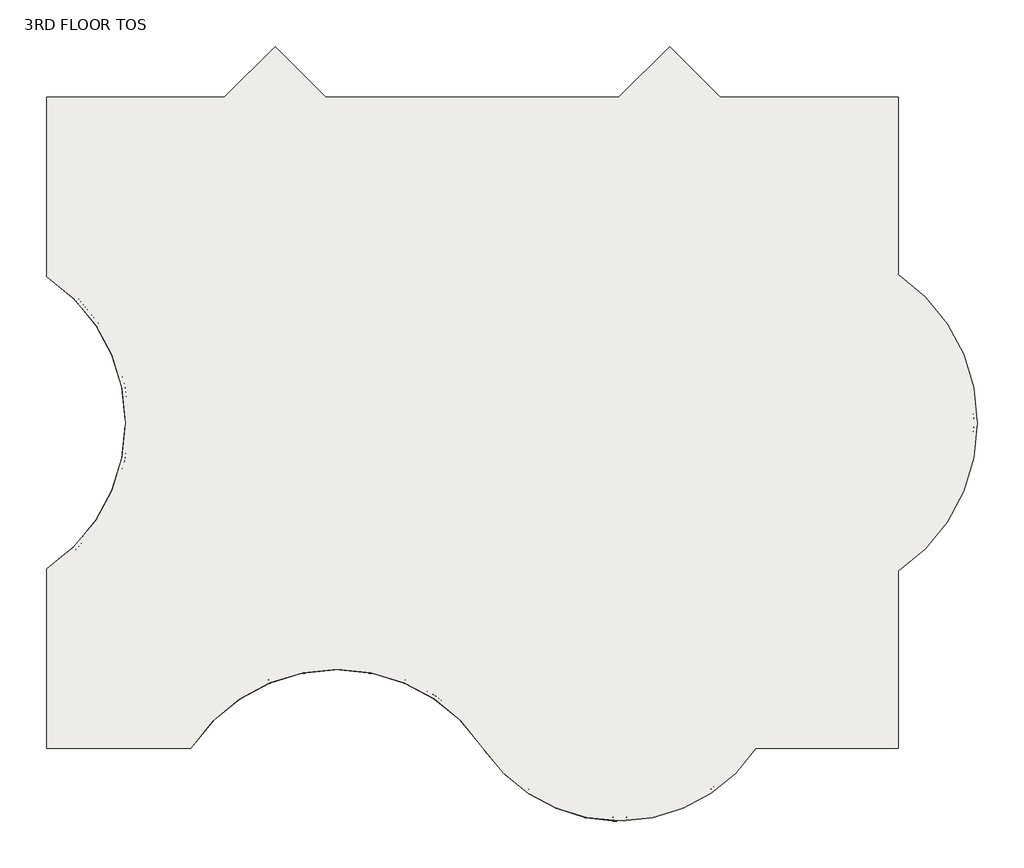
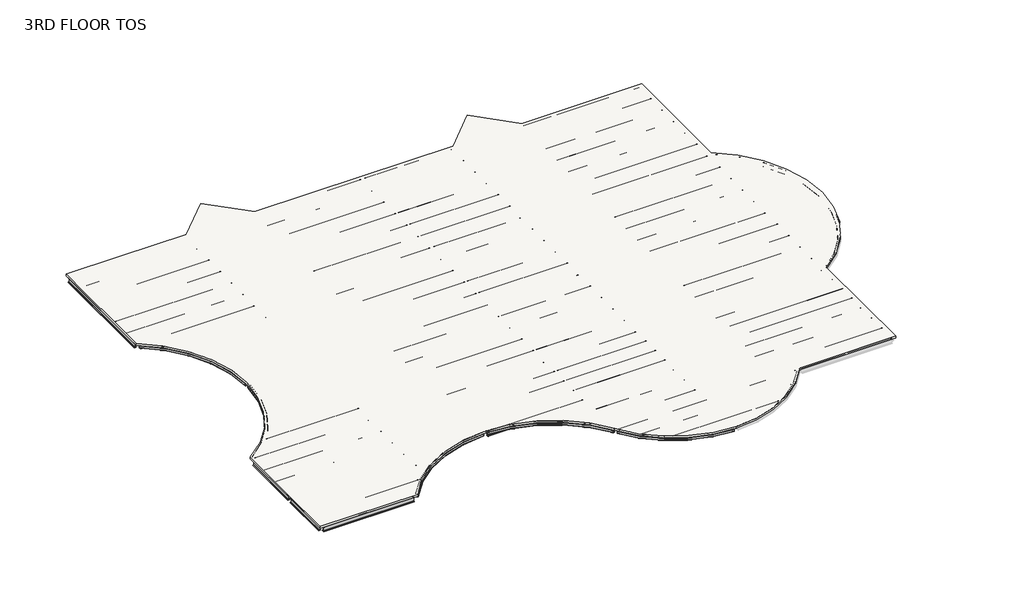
# One storey, part 1 of 2: 86 beams, 1 slab.
"""IFC4 building model written with IfcOpenShell, lengths in millimetres."""

from ifc_helpers import new_model, si_unit, frame, origin, place, context, project, spatial, polyline, circle_curve, transform, mapped, element, save
from ifc_brep_helpers import plane_surface, cylinder_surface, revolved_surface, advanced_brep
from components import m_hss_square_hss203_2x203_2x9_5_914ff4eb, m_hss_square_hss203_2x203_2x9_5_0e3d8e6e, m_hss_square_hss203_2x203_2x9_5_16dc1c03, m_hss_square_hss203_2x203_2x9_5_18346204, m_hss_square_hss203_2x203_2x9_5_d5f1e8c4, ub_universal_beams_ub254x102x28_4e7f3726, ub_universal_beams_ub305x165x40_c4d0385b, ub_universal_beams_ub305x165x40_d3abc31d, ub_universal_beams_ub305x165x40_0c73730f, ub_universal_beams_ub305x165x40_2a963f0c, ub_universal_beams_ub305x165x40_0a5f2f96, ub_universal_beams_ub305x165x40_d1f7c369, ub_universal_beams_ub305x165x40_83d7b7d5, ub_universal_beams_ub305x165x40_729a4ea5, ub_universal_beams_ub305x165x40_71dfa851, ub_universal_beams_ub305x165x40_619b5398, ub_universal_beams_ub305x165x40_c3492db1, ub_universal_beams_ub305x165x40_8f1c350d, ub_universal_beams_ub305x165x40_3afb5f90, ub_universal_beams_ub305x165x40_767d1929, ub_universal_beams_ub305x165x40_5941ca45, ub_universal_beams_ub356x171x51_ef72dcdd, ub_universal_beams_ub356x171x51_7f80702c, ub_universal_beams_ub356x171x51_dfc36663, ub_universal_beams_ub356x171x51_405a853e, ub_universal_beams_ub356x171x51_e47b7055, ub_universal_beams_ub356x171x51_e97f8d2e, ub_universal_beams_ub356x171x51_11d6b780, ub_universal_beams_ub356x171x51_76b2d20b, ub_universal_beams_ub356x171x51_145ecd4b, ub_universal_beams_ub356x171x51_c7dff8d2, ub_universal_beams_ub356x171x51_834c6e34, ub_universal_beams_ub356x171x51_a38b99de, ub_universal_beams_ub356x171x51_d8f4cdde, ub_universal_beams_ub356x171x51_8094f821, ub_universal_beams_ub356x171x51_e661f2e4, ub_universal_beams_ub356x171x51_3ee91673, ub_universal_beams_ub356x171x51_a871b283, ub_universal_beams_ub356x171x51_741bae58

model = new_model("IFC4")

# Units and contexts
model_context = context("Model", 3, world=origin())
ifc_project = project(units=[si_unit("LENGTHUNIT", "METRE", prefix="MILLI")], contexts=[model_context])

# Site, building, storey
site = spatial("IfcSite", under=ifc_project)
building = spatial("IfcBuilding", under=site)
storey = spatial("IfcBuildingStorey", under=building, Name="3RD FLOOR TOS", Elevation=13563.6)

# Beams
placement = place(None, origin())
m_hss_square_hss203_2x203_2x9_5_shape = m_hss_square_hss203_2x203_2x9_5_914ff4eb(model_context)
element("IfcBeam", 1, ObjectType="M_HSS Square : HSS203.2X203.2X9.5", at=placement, inside=storey, context=model_context, shape_type="MappedRepresentation", body=[
    mapped(m_hss_square_hss203_2x203_2x9_5_shape, transform((22710.575, 155.575, 13462.1), x_axis=(-0.552849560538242, 0.8332810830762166, 0.0), y_axis=(-0.8332810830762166, -0.552849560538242, 0.0), z_axis=(0.0, 0.0, 1.0))),
])
m_hss_square_hss203_2x203_2x9_5_2_shape = m_hss_square_hss203_2x203_2x9_5_0e3d8e6e(model_context)
element("IfcBeam", 2, ObjectType="M_HSS Square : HSS203.2X203.2X9.5", at=placement, inside=storey, context=model_context, shape_type="MappedRepresentation", body=[
    mapped(m_hss_square_hss203_2x203_2x9_5_2_shape, transform((155.575, 9299.575, 13462.1), x_axis=(0.8332810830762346, 0.5528495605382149, 0.0), y_axis=(-0.5528495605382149, 0.8332810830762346, 0.0), z_axis=(0.0, 0.0, 1.0))),
])
m_hss_square_hss203_2x203_2x9_5_3_shape = m_hss_square_hss203_2x203_2x9_5_16dc1c03(model_context)
element("IfcBeam", 3, ObjectType="M_HSS Square : HSS203.2X203.2X9.5", at=placement, inside=storey, context=model_context, shape_type="MappedRepresentation", body=[
    mapped(m_hss_square_hss203_2x203_2x9_5_3_shape, transform((155.575, 24539.575, 13462.1), x_axis=(0.8332810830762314, -0.5528495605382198, 0.0), y_axis=(0.5528495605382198, 0.8332810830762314, 0.0), z_axis=(0.0, 0.0, 1.0))),
])
m_hss_square_hss203_2x203_2x9_5_4_shape = m_hss_square_hss203_2x203_2x9_5_18346204(model_context)
element("IfcBeam", 4, ObjectType="M_HSS Square : HSS203.2X203.2X9.5", at=placement, inside=storey, context=model_context, shape_type="MappedRepresentation", body=[
    mapped(m_hss_square_hss203_2x203_2x9_5_4_shape, transform((29734.7266693, -3601.398624, 13462.1), x_axis=(-0.9999968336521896, -0.0025164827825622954, 0.0), y_axis=(0.0025164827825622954, -0.9999968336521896, 0.0), z_axis=(0.0, 0.0, 1.0))),
])
m_hss_square_hss203_2x203_2x9_5_5_shape = m_hss_square_hss203_2x203_2x9_5_d5f1e8c4(model_context)
element("IfcBeam", 5, ObjectType="M_HSS Square : HSS203.2X203.2X9.5", at=placement, inside=storey, context=model_context, shape_type="MappedRepresentation", body=[
    mapped(m_hss_square_hss203_2x203_2x9_5_5_shape, transform((15096.4572854, 4244.5731081, 13462.1), x_axis=(-0.9999997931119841, 0.0006432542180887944, 0.0), y_axis=(-0.0006432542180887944, -0.9999997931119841, 0.0), z_axis=(0.0, 0.0, 1.0))),
])
ub_universal_beams_ub254x102x28_shape = ub_universal_beams_ub254x102x28_4e7f3726(model_context)
element("IfcBeam", 6, ObjectType="UB-Universal Beams : UB254x102x28", at=placement, inside=storey, context=model_context, shape_type="MappedRepresentation", body=[
    mapped(ub_universal_beams_ub254x102x28_shape, transform((9299.575, 3210.915913, 13433.4), x_axis=(0.0, -1.0, 0.0), y_axis=(1.0, 0.0, 0.0), z_axis=(0.0, 0.0, 1.0))),
])
ub_universal_beams_ub305x165x40_shape = ub_universal_beams_ub305x165x40_c4d0385b(model_context)
element("IfcBeam", 7, ObjectType="UB-Universal Beams : UB305x165x40", at=placement, inside=storey, context=model_context, shape_type="MappedRepresentation", body=[
    mapped(ub_universal_beams_ub305x165x40_shape, transform((4727.575, 30635.575, 13411.9), x_axis=(1.0, 0.0, 0.0), y_axis=(0.0, 1.0, 0.0), z_axis=(0.0, 0.0, 1.0))),
])
element("IfcBeam", 8, ObjectType="UB-Universal Beams : UB305x165x40", at=placement, inside=storey, context=model_context, shape_type="MappedRepresentation", body=[
    mapped(ub_universal_beams_ub305x165x40_shape, transform((4727.575, 29111.575, 13411.9), x_axis=(1.0, 0.0, 0.0), y_axis=(0.0, 1.0, 0.0), z_axis=(0.0, 0.0, 1.0))),
])
element("IfcBeam", 9, ObjectType="UB-Universal Beams : UB305x165x40", at=placement, inside=storey, context=model_context, shape_type="MappedRepresentation", body=[
    mapped(ub_universal_beams_ub305x165x40_shape, transform((4727.575, 27587.575, 13411.9), x_axis=(1.0, 0.0, 0.0), y_axis=(0.0, 1.0, 0.0), z_axis=(0.0, 0.0, 1.0))),
])
element("IfcBeam", 10, ObjectType="UB-Universal Beams : UB305x165x40", at=placement, inside=storey, context=model_context, shape_type="MappedRepresentation", body=[
    mapped(ub_universal_beams_ub305x165x40_shape, transform((4727.575, 26063.575, 13411.9), x_axis=(1.0, 0.0, 0.0), y_axis=(0.0, 1.0, 0.0), z_axis=(0.0, 0.0, 1.0))),
])
element("IfcBeam", 11, ObjectType="UB-Universal Beams : UB305x165x40", at=placement, inside=storey, context=model_context, shape_type="MappedRepresentation", body=[
    mapped(ub_universal_beams_ub305x165x40_shape, transform((4727.575, 4727.575, 13411.9), x_axis=(-1.0, 0.0, 0.0), y_axis=(0.0, -1.0, 0.0), z_axis=(0.0, 0.0, 1.0))),
])
element("IfcBeam", 12, ObjectType="UB-Universal Beams : UB305x165x40", at=placement, inside=storey, context=model_context, shape_type="MappedRepresentation", body=[
    mapped(ub_universal_beams_ub305x165x40_shape, transform((4727.575, 6251.575, 13411.9), x_axis=(-1.0, 0.0, 0.0), y_axis=(0.0, -1.0, 0.0), z_axis=(0.0, 0.0, 1.0))),
])
element("IfcBeam", 13, ObjectType="UB-Universal Beams : UB305x165x40", at=placement, inside=storey, context=model_context, shape_type="MappedRepresentation", body=[
    mapped(ub_universal_beams_ub305x165x40_shape, transform((4727.575, 7775.575, 13411.9), x_axis=(-1.0, 0.0, 0.0), y_axis=(0.0, -1.0, 0.0), z_axis=(0.0, 0.0, 1.0))),
])
ub_universal_beams_ub305x165x40_2_shape = ub_universal_beams_ub305x165x40_d3abc31d(model_context)
element("IfcBeam", 14, ObjectType="UB-Universal Beams : UB305x165x40", at=placement, inside=storey, context=model_context, shape_type="MappedRepresentation", body=[
    mapped(ub_universal_beams_ub305x165x40_2_shape, transform((11885.575, 28938.325, 13411.9), x_axis=(1.0, 0.0, 0.0), y_axis=(0.0, 1.0, 0.0), z_axis=(0.0, 0.0, 1.0))),
])
element("IfcBeam", 15, ObjectType="UB-Universal Beams : UB305x165x40", at=placement, inside=storey, context=model_context, shape_type="MappedRepresentation", body=[
    mapped(ub_universal_beams_ub305x165x40_2_shape, transform((11885.575, 27472.075, 13411.9), x_axis=(1.0, 0.0, 0.0), y_axis=(0.0, 1.0, 0.0), z_axis=(0.0, 0.0, 1.0))),
])
element("IfcBeam", 16, ObjectType="UB-Universal Beams : UB305x165x40", at=placement, inside=storey, context=model_context, shape_type="MappedRepresentation", body=[
    mapped(ub_universal_beams_ub305x165x40_2_shape, transform((11885.575, 26005.825, 13411.9), x_axis=(1.0, 0.0, 0.0), y_axis=(0.0, 1.0, 0.0), z_axis=(0.0, 0.0, 1.0))),
])
element("IfcBeam", 17, ObjectType="UB-Universal Beams : UB305x165x40", at=placement, inside=storey, context=model_context, shape_type="MappedRepresentation", body=[
    mapped(ub_universal_beams_ub305x165x40_2_shape, transform((11885.575, 23015.575, 13411.9), x_axis=(1.0, 0.0, 0.0), y_axis=(0.0, 1.0, 0.0), z_axis=(0.0, 0.0, 1.0))),
])
element("IfcBeam", 18, ObjectType="UB-Universal Beams : UB305x165x40", at=placement, inside=storey, context=model_context, shape_type="MappedRepresentation", body=[
    mapped(ub_universal_beams_ub305x165x40_2_shape, transform((11885.575, 21491.575, 13411.9), x_axis=(1.0, 0.0, 0.0), y_axis=(0.0, 1.0, 0.0), z_axis=(0.0, 0.0, 1.0))),
])
element("IfcBeam", 19, ObjectType="UB-Universal Beams : UB305x165x40", at=placement, inside=storey, context=model_context, shape_type="MappedRepresentation", body=[
    mapped(ub_universal_beams_ub305x165x40_2_shape, transform((11885.575, 19967.575, 13411.9), x_axis=(1.0, 0.0, 0.0), y_axis=(0.0, 1.0, 0.0), z_axis=(0.0, 0.0, 1.0))),
])
element("IfcBeam", 20, ObjectType="UB-Universal Beams : UB305x165x40", at=placement, inside=storey, context=model_context, shape_type="MappedRepresentation", body=[
    mapped(ub_universal_beams_ub305x165x40_2_shape, transform((11885.575, 18443.575, 13411.9), x_axis=(1.0, 0.0, 0.0), y_axis=(0.0, 1.0, 0.0), z_axis=(0.0, 0.0, 1.0))),
])
element("IfcBeam", 21, ObjectType="UB-Universal Beams : UB305x165x40", at=placement, inside=storey, context=model_context, shape_type="MappedRepresentation", body=[
    mapped(ub_universal_beams_ub305x165x40_2_shape, transform((11885.575, 15395.575, 13411.9), x_axis=(1.0, 0.0, 0.0), y_axis=(0.0, 1.0, 0.0), z_axis=(0.0, 0.0, 1.0))),
])
element("IfcBeam", 22, ObjectType="UB-Universal Beams : UB305x165x40", at=placement, inside=storey, context=model_context, shape_type="MappedRepresentation", body=[
    mapped(ub_universal_beams_ub305x165x40_2_shape, transform((11885.575, 13871.575, 13411.9), x_axis=(1.0, 0.0, 0.0), y_axis=(0.0, 1.0, 0.0), z_axis=(0.0, 0.0, 1.0))),
])
element("IfcBeam", 23, ObjectType="UB-Universal Beams : UB305x165x40", at=placement, inside=storey, context=model_context, shape_type="MappedRepresentation", body=[
    mapped(ub_universal_beams_ub305x165x40_2_shape, transform((11885.575, 12347.575, 13411.9), x_axis=(1.0, 0.0, 0.0), y_axis=(0.0, 1.0, 0.0), z_axis=(0.0, 0.0, 1.0))),
])
element("IfcBeam", 24, ObjectType="UB-Universal Beams : UB305x165x40", at=placement, inside=storey, context=model_context, shape_type="MappedRepresentation", body=[
    mapped(ub_universal_beams_ub305x165x40_2_shape, transform((11885.575, 10823.575, 13411.9), x_axis=(1.0, 0.0, 0.0), y_axis=(0.0, 1.0, 0.0), z_axis=(0.0, 0.0, 1.0))),
])
element("IfcBeam", 25, ObjectType="UB-Universal Beams : UB305x165x40", at=placement, inside=storey, context=model_context, shape_type="MappedRepresentation", body=[
    mapped(ub_universal_beams_ub305x165x40_2_shape, transform((11885.575, 5026.1840956, 13411.9), x_axis=(-1.0, 0.0, 0.0), y_axis=(0.0, -1.0, 0.0), z_axis=(0.0, 0.0, 1.0))),
])
element("IfcBeam", 26, ObjectType="UB-Universal Beams : UB305x165x40", at=placement, inside=storey, context=model_context, shape_type="MappedRepresentation", body=[
    mapped(ub_universal_beams_ub305x165x40_2_shape, transform((11885.575, 6450.6477304, 13411.9), x_axis=(-1.0, 0.0, 0.0), y_axis=(0.0, -1.0, 0.0), z_axis=(0.0, 0.0, 1.0))),
])
element("IfcBeam", 27, ObjectType="UB-Universal Beams : UB305x165x40", at=placement, inside=storey, context=model_context, shape_type="MappedRepresentation", body=[
    mapped(ub_universal_beams_ub305x165x40_2_shape, transform((11885.575, 7875.1113652, 13411.9), x_axis=(-1.0, 0.0, 0.0), y_axis=(0.0, -1.0, 0.0), z_axis=(0.0, 0.0, 1.0))),
])
ub_universal_beams_ub305x165x40_3_shape = ub_universal_beams_ub305x165x40_0c73730f(model_context)
element("IfcBeam", 28, ObjectType="UB-Universal Beams : UB305x165x40", at=placement, inside=storey, context=model_context, shape_type="MappedRepresentation", body=[
    mapped(ub_universal_beams_ub305x165x40_3_shape, transform((18591.075, 5492.5943214, 13411.9), x_axis=(-1.0, 0.0, 0.0), y_axis=(0.0, -1.0, 0.0), z_axis=(0.0, 0.0, 1.0))),
])
element("IfcBeam", 29, ObjectType="UB-Universal Beams : UB305x165x40", at=placement, inside=storey, context=model_context, shape_type="MappedRepresentation", body=[
    mapped(ub_universal_beams_ub305x165x40_3_shape, transform((18591.075, 6761.5878809, 13411.9), x_axis=(-1.0, 0.0, 0.0), y_axis=(0.0, -1.0, 0.0), z_axis=(0.0, 0.0, 1.0))),
])
element("IfcBeam", 30, ObjectType="UB-Universal Beams : UB305x165x40", at=placement, inside=storey, context=model_context, shape_type="MappedRepresentation", body=[
    mapped(ub_universal_beams_ub305x165x40_3_shape, transform((18591.075, 8030.5814405, 13411.9), x_axis=(-1.0, 0.0, 0.0), y_axis=(0.0, -1.0, 0.0), z_axis=(0.0, 0.0, 1.0))),
])
element("IfcBeam", 31, ObjectType="UB-Universal Beams : UB305x165x40", at=placement, inside=storey, context=model_context, shape_type="MappedRepresentation", body=[
    mapped(ub_universal_beams_ub305x165x40_3_shape, transform((18591.075, 15395.575, 13411.9), x_axis=(1.0, 0.0, 0.0), y_axis=(0.0, 1.0, 0.0), z_axis=(0.0, 0.0, 1.0))),
])
element("IfcBeam", 32, ObjectType="UB-Universal Beams : UB305x165x40", at=placement, inside=storey, context=model_context, shape_type="MappedRepresentation", body=[
    mapped(ub_universal_beams_ub305x165x40_3_shape, transform((18591.075, 13871.575, 13411.9), x_axis=(1.0, 0.0, 0.0), y_axis=(0.0, 1.0, 0.0), z_axis=(0.0, 0.0, 1.0))),
])
element("IfcBeam", 33, ObjectType="UB-Universal Beams : UB305x165x40", at=placement, inside=storey, context=model_context, shape_type="MappedRepresentation", body=[
    mapped(ub_universal_beams_ub305x165x40_3_shape, transform((18591.075, 12347.575, 13411.9), x_axis=(1.0, 0.0, 0.0), y_axis=(0.0, 1.0, 0.0), z_axis=(0.0, 0.0, 1.0))),
])
element("IfcBeam", 34, ObjectType="UB-Universal Beams : UB305x165x40", at=placement, inside=storey, context=model_context, shape_type="MappedRepresentation", body=[
    mapped(ub_universal_beams_ub305x165x40_3_shape, transform((18591.075, 10823.575, 13411.9), x_axis=(1.0, 0.0, 0.0), y_axis=(0.0, 1.0, 0.0), z_axis=(0.0, 0.0, 1.0))),
])
ub_universal_beams_ub305x165x40_4_shape = ub_universal_beams_ub305x165x40_2a963f0c(model_context)
element("IfcBeam", 35, ObjectType="UB-Universal Beams : UB305x165x40", at=placement, inside=storey, context=model_context, shape_type="MappedRepresentation", body=[
    mapped(ub_universal_beams_ub305x165x40_4_shape, transform((26211.075, 15395.575, 13411.9), x_axis=(1.0, 0.0, 0.0), y_axis=(0.0, 1.0, 0.0), z_axis=(0.0, 0.0, 1.0))),
])
element("IfcBeam", 36, ObjectType="UB-Universal Beams : UB305x165x40", at=placement, inside=storey, context=model_context, shape_type="MappedRepresentation", body=[
    mapped(ub_universal_beams_ub305x165x40_4_shape, transform((26211.075, 13871.575, 13411.9), x_axis=(1.0, 0.0, 0.0), y_axis=(0.0, 1.0, 0.0), z_axis=(0.0, 0.0, 1.0))),
])
element("IfcBeam", 37, ObjectType="UB-Universal Beams : UB305x165x40", at=placement, inside=storey, context=model_context, shape_type="MappedRepresentation", body=[
    mapped(ub_universal_beams_ub305x165x40_4_shape, transform((26211.075, 12347.575, 13411.9), x_axis=(1.0, 0.0, 0.0), y_axis=(0.0, 1.0, 0.0), z_axis=(0.0, 0.0, 1.0))),
])
element("IfcBeam", 38, ObjectType="UB-Universal Beams : UB305x165x40", at=placement, inside=storey, context=model_context, shape_type="MappedRepresentation", body=[
    mapped(ub_universal_beams_ub305x165x40_4_shape, transform((26211.075, 10823.575, 13411.9), x_axis=(1.0, 0.0, 0.0), y_axis=(0.0, 1.0, 0.0), z_axis=(0.0, 0.0, 1.0))),
])
element("IfcBeam", 39, ObjectType="UB-Universal Beams : UB305x165x40", at=placement, inside=storey, context=model_context, shape_type="MappedRepresentation", body=[
    mapped(ub_universal_beams_ub305x165x40_4_shape, transform((26211.075, 5508.325, 13411.9), x_axis=(-1.0, 0.0, 0.0), y_axis=(0.0, -1.0, 0.0), z_axis=(0.0, 0.0, 1.0))),
])
element("IfcBeam", 40, ObjectType="UB-Universal Beams : UB305x165x40", at=placement, inside=storey, context=model_context, shape_type="MappedRepresentation", body=[
    mapped(ub_universal_beams_ub305x165x40_4_shape, transform((26211.075, 6772.075, 13411.9), x_axis=(-1.0, 0.0, 0.0), y_axis=(0.0, -1.0, 0.0), z_axis=(0.0, 0.0, 1.0))),
])
element("IfcBeam", 41, ObjectType="UB-Universal Beams : UB305x165x40", at=placement, inside=storey, context=model_context, shape_type="MappedRepresentation", body=[
    mapped(ub_universal_beams_ub305x165x40_4_shape, transform((26211.075, 8035.825, 13411.9), x_axis=(-1.0, 0.0, 0.0), y_axis=(0.0, -1.0, 0.0), z_axis=(0.0, 0.0, 1.0))),
])
element("IfcBeam", 42, ObjectType="UB-Universal Beams : UB305x165x40", at=placement, inside=storey, context=model_context, shape_type="MappedRepresentation", body=[
    mapped(ub_universal_beams_ub305x165x40_4_shape, transform((26211.075, 1518.575, 13411.9), x_axis=(-1.0, 0.0, 0.0), y_axis=(0.0, -1.0, 0.0), z_axis=(0.0, 0.0, 1.0))),
])
element("IfcBeam", 43, ObjectType="UB-Universal Beams : UB305x165x40", at=placement, inside=storey, context=model_context, shape_type="MappedRepresentation", body=[
    mapped(ub_universal_beams_ub305x165x40_4_shape, transform((26211.075, 2881.575, 13411.9), x_axis=(-1.0, 0.0, 0.0), y_axis=(0.0, -1.0, 0.0), z_axis=(0.0, 0.0, 1.0))),
])
ub_universal_beams_ub305x165x40_5_shape = ub_universal_beams_ub305x165x40_0a5f2f96(model_context)
element("IfcBeam", 44, ObjectType="UB-Universal Beams : UB305x165x40", at=placement, inside=storey, context=model_context, shape_type="MappedRepresentation", body=[
    mapped(ub_universal_beams_ub305x165x40_5_shape, transform((29713.575, -2349.0918253, 13411.9), x_axis=(-1.0, 0.0, 0.0), y_axis=(0.0, -1.0, 0.0), z_axis=(0.0, 0.0, 1.0))),
])
ub_universal_beams_ub305x165x40_6_shape = ub_universal_beams_ub305x165x40_d1f7c369(model_context)
element("IfcBeam", 45, ObjectType="UB-Universal Beams : UB305x165x40", at=placement, inside=storey, context=model_context, shape_type="MappedRepresentation", body=[
    mapped(ub_universal_beams_ub305x165x40_6_shape, transform((29713.575, -1096.7584126, 13411.9), x_axis=(-1.0, 0.0, 0.0), y_axis=(0.0, -1.0, 0.0), z_axis=(0.0, 0.0, 1.0))),
])
ub_universal_beams_ub305x165x40_7_shape = ub_universal_beams_ub305x165x40_83d7b7d5(model_context)
element("IfcBeam", 46, ObjectType="UB-Universal Beams : UB305x165x40", at=placement, inside=storey, context=model_context, shape_type="MappedRepresentation", body=[
    mapped(ub_universal_beams_ub305x165x40_7_shape, transform((22157.3041106, 1518.575, 13411.9), x_axis=(-1.0, 0.0, 0.0), y_axis=(0.0, -1.0, 0.0), z_axis=(0.0, 0.0, 1.0))),
])
ub_universal_beams_ub305x165x40_8_shape = ub_universal_beams_ub305x165x40_729a4ea5(model_context)
element("IfcBeam", 47, ObjectType="UB-Universal Beams : UB305x165x40", at=placement, inside=storey, context=model_context, shape_type="MappedRepresentation", body=[
    mapped(ub_universal_beams_ub305x165x40_8_shape, transform((21302.1545844, 2881.575, 13411.9), x_axis=(-1.0, 0.0, 0.0), y_axis=(0.0, -1.0, 0.0), z_axis=(0.0, 0.0, 1.0))),
])
ub_universal_beams_ub305x165x40_9_shape = ub_universal_beams_ub305x165x40_71dfa851(model_context)
element("IfcBeam", 48, ObjectType="UB-Universal Beams : UB305x165x40", at=placement, inside=storey, context=model_context, shape_type="MappedRepresentation", body=[
    mapped(ub_universal_beams_ub305x165x40_9_shape, transform((10511.0323166, 3601.7204608, 13411.9), x_axis=(-1.0, 0.0, 0.0), y_axis=(0.0, -1.0, 0.0), z_axis=(0.0, 0.0, 1.0))),
])
ub_universal_beams_ub305x165x40_10_shape = ub_universal_beams_ub305x165x40_619b5398(model_context)
element("IfcBeam", 49, ObjectType="UB-Universal Beams : UB305x165x40", at=placement, inside=storey, context=model_context, shape_type="MappedRepresentation", body=[
    mapped(ub_universal_beams_ub305x165x40_10_shape, transform((4447.6838282, 1679.575, 13411.9), x_axis=(-1.0, 0.0, 0.0), y_axis=(0.0, -1.0, 0.0), z_axis=(0.0, 0.0, 1.0))),
])
ub_universal_beams_ub305x165x40_11_shape = ub_universal_beams_ub305x165x40_c3492db1(model_context)
element("IfcBeam", 50, ObjectType="UB-Universal Beams : UB305x165x40", at=placement, inside=storey, context=model_context, shape_type="MappedRepresentation", body=[
    mapped(ub_universal_beams_ub305x165x40_11_shape, transform((4727.575, 3203.575, 13411.9), x_axis=(-1.0, 0.0, 0.0), y_axis=(0.0, -1.0, 0.0), z_axis=(0.0, 0.0, 1.0))),
])
ub_universal_beams_ub305x165x40_12_shape = ub_universal_beams_ub305x165x40_8f1c350d(model_context)
element("IfcBeam", 51, ObjectType="UB-Universal Beams : UB305x165x40", at=placement, inside=storey, context=model_context, shape_type="MappedRepresentation", body=[
    mapped(ub_universal_beams_ub305x165x40_12_shape, transform((6708.1318611, 15395.575, 13411.9), x_axis=(1.0, 0.0, 0.0), y_axis=(0.0, 1.0, 0.0), z_axis=(0.0, 0.0, 1.0))),
])
element("IfcBeam", 52, ObjectType="UB-Universal Beams : UB305x165x40", at=placement, inside=storey, context=model_context, shape_type="MappedRepresentation", body=[
    mapped(ub_universal_beams_ub305x165x40_12_shape, transform((6708.1318611, 18443.575, 13411.9), x_axis=(1.0, 0.0, 0.0), y_axis=(0.0, 1.0, 0.0), z_axis=(0.0, 0.0, 1.0))),
])
ub_universal_beams_ub305x165x40_13_shape = ub_universal_beams_ub305x165x40_3afb5f90(model_context)
element("IfcBeam", 53, ObjectType="UB-Universal Beams : UB305x165x40", at=placement, inside=storey, context=model_context, shape_type="MappedRepresentation", body=[
    mapped(ub_universal_beams_ub305x165x40_13_shape, transform((6510.6153272, 13871.575, 13411.9), x_axis=(1.0, 0.0, 0.0), y_axis=(0.0, 1.0, 0.0), z_axis=(0.0, 0.0, 1.0))),
])
element("IfcBeam", 54, ObjectType="UB-Universal Beams : UB305x165x40", at=placement, inside=storey, context=model_context, shape_type="MappedRepresentation", body=[
    mapped(ub_universal_beams_ub305x165x40_13_shape, transform((6510.6153272, 19967.575, 13411.9), x_axis=(1.0, 0.0, 0.0), y_axis=(0.0, 1.0, 0.0), z_axis=(0.0, 0.0, 1.0))),
])
ub_universal_beams_ub305x165x40_14_shape = ub_universal_beams_ub305x165x40_767d1929(model_context)
element("IfcBeam", 55, ObjectType="UB-Universal Beams : UB305x165x40", at=placement, inside=storey, context=model_context, shape_type="MappedRepresentation", body=[
    mapped(ub_universal_beams_ub305x165x40_14_shape, transform((6159.5874928, 12347.575, 13411.9), x_axis=(1.0, 0.0, 0.0), y_axis=(0.0, 1.0, 0.0), z_axis=(0.0, 0.0, 1.0))),
])
element("IfcBeam", 56, ObjectType="UB-Universal Beams : UB305x165x40", at=placement, inside=storey, context=model_context, shape_type="MappedRepresentation", body=[
    mapped(ub_universal_beams_ub305x165x40_14_shape, transform((6159.5874928, 21491.575, 13411.9), x_axis=(1.0, 0.0, 0.0), y_axis=(0.0, 1.0, 0.0), z_axis=(0.0, 0.0, 1.0))),
])
ub_universal_beams_ub305x165x40_15_shape = ub_universal_beams_ub305x165x40_5941ca45(model_context)
element("IfcBeam", 57, ObjectType="UB-Universal Beams : UB305x165x40", at=placement, inside=storey, context=model_context, shape_type="MappedRepresentation", body=[
    mapped(ub_universal_beams_ub305x165x40_15_shape, transform((5607.9405309, 10823.575, 13411.9), x_axis=(1.0, 0.0, 0.0), y_axis=(0.0, 1.0, 0.0), z_axis=(0.0, 0.0, 1.0))),
])
element("IfcBeam", 58, ObjectType="UB-Universal Beams : UB305x165x40", at=placement, inside=storey, context=model_context, shape_type="MappedRepresentation", body=[
    mapped(ub_universal_beams_ub305x165x40_15_shape, transform((5607.9405309, 23015.575, 13411.9), x_axis=(1.0, 0.0, 0.0), y_axis=(0.0, 1.0, 0.0), z_axis=(0.0, 0.0, 1.0))),
])
ub_universal_beams_ub356x171x51_shape = ub_universal_beams_ub356x171x51_ef72dcdd(model_context)
element("IfcBeam", 59, ObjectType="UB-Universal Beams : UB356x171x51", at=placement, inside=storey, context=model_context, shape_type="MappedRepresentation", body=[
    mapped(ub_universal_beams_ub356x171x51_shape, transform((9299.575, 6772.075, 13386.1), x_axis=(0.0, -1.0, 0.0), y_axis=(1.0, 0.0, 0.0), z_axis=(0.0, 0.0, 1.0))),
])
element("IfcBeam", 60, ObjectType="UB-Universal Beams : UB356x171x51", at=placement, inside=storey, context=model_context, shape_type="MappedRepresentation", body=[
    mapped(ub_universal_beams_ub356x171x51_shape, transform((29711.575, 6772.075, 13386.1), x_axis=(0.0, 1.0, 0.0), y_axis=(-1.0, 0.0, 0.0), z_axis=(0.0, 0.0, 1.0))),
])
element("IfcBeam", 61, ObjectType="UB-Universal Beams : UB356x171x51", at=placement, inside=storey, context=model_context, shape_type="MappedRepresentation", body=[
    mapped(ub_universal_beams_ub356x171x51_shape, transform((22710.575, 6772.075, 13386.1), x_axis=(0.0, -1.0, 0.0), y_axis=(1.0, 0.0, 0.0), z_axis=(0.0, 0.0, 1.0))),
])
ub_universal_beams_ub356x171x51_2_shape = ub_universal_beams_ub356x171x51_7f80702c(model_context)
element("IfcBeam", 62, ObjectType="UB-Universal Beams : UB356x171x51", at=placement, inside=storey, context=model_context, shape_type="MappedRepresentation", body=[
    mapped(ub_universal_beams_ub356x171x51_2_shape, transform((3813.075, 155.575, 13386.1), x_axis=(-1.0, 0.0, 0.0), y_axis=(0.0, -1.0, 0.0), z_axis=(0.0, 0.0, 1.0))),
])
ub_universal_beams_ub356x171x51_3_shape = ub_universal_beams_ub356x171x51_dfc36663(model_context)
element("IfcBeam", 63, ObjectType="UB-Universal Beams : UB356x171x51", at=placement, inside=storey, context=model_context, shape_type="MappedRepresentation", body=[
    mapped(ub_universal_beams_ub356x171x51_3_shape, transform((155.575, 2200.075, 13386.1), x_axis=(0.0, 1.0, 0.0), y_axis=(-1.0, 0.0, 0.0), z_axis=(0.0, 0.0, 1.0))),
])
ub_universal_beams_ub356x171x51_4_shape = ub_universal_beams_ub356x171x51_405a853e(model_context)
element("IfcBeam", 64, ObjectType="UB-Universal Beams : UB356x171x51", at=placement, inside=storey, context=model_context, shape_type="MappedRepresentation", body=[
    mapped(ub_universal_beams_ub356x171x51_4_shape, transform((155.575, 6772.075, 13386.1), x_axis=(0.0, 1.0, 0.0), y_axis=(-1.0, 0.0, 0.0), z_axis=(0.0, 0.0, 1.0))),
])
ub_universal_beams_ub356x171x51_5_shape = ub_universal_beams_ub356x171x51_e47b7055(model_context)
element("IfcBeam", 65, ObjectType="UB-Universal Beams : UB356x171x51", at=placement, inside=storey, context=model_context, shape_type="MappedRepresentation", body=[
    mapped(ub_universal_beams_ub356x171x51_5_shape, transform((155.575, 29111.575, 13386.1), x_axis=(0.0, 1.0, 0.0), y_axis=(-1.0, 0.0, 0.0), z_axis=(0.0, 0.0, 1.0))),
])
ub_universal_beams_ub356x171x51_6_shape = ub_universal_beams_ub356x171x51_e97f8d2e(model_context)
element("IfcBeam", 66, ObjectType="UB-Universal Beams : UB356x171x51", at=placement, inside=storey, context=model_context, shape_type="MappedRepresentation", body=[
    mapped(ub_universal_beams_ub356x171x51_6_shape, transform((4727.575, 24539.575, 13386.1), x_axis=(1.0, 0.0, 0.0), y_axis=(0.0, 1.0, 0.0), z_axis=(0.0, 0.0, 1.0))),
])
ub_universal_beams_ub356x171x51_7_shape = ub_universal_beams_ub356x171x51_11d6b780(model_context)
element("IfcBeam", 67, ObjectType="UB-Universal Beams : UB356x171x51", at=placement, inside=storey, context=model_context, shape_type="MappedRepresentation", body=[
    mapped(ub_universal_beams_ub356x171x51_7_shape, transform((11885.575, 24539.575, 13386.1), x_axis=(1.0, 0.0, 0.0), y_axis=(0.0, 1.0, 0.0), z_axis=(0.0, 0.0, 1.0))),
])
element("IfcBeam", 68, ObjectType="UB-Universal Beams : UB356x171x51", at=placement, inside=storey, context=model_context, shape_type="MappedRepresentation", body=[
    mapped(ub_universal_beams_ub356x171x51_7_shape, transform((11885.575, 9299.575, 13386.1), x_axis=(-1.0, 0.0, 0.0), y_axis=(0.0, -1.0, 0.0), z_axis=(0.0, 0.0, 1.0))),
])
element("IfcBeam", 69, ObjectType="UB-Universal Beams : UB356x171x51", at=placement, inside=storey, context=model_context, shape_type="MappedRepresentation", body=[
    mapped(ub_universal_beams_ub356x171x51_7_shape, transform((11885.575, 16919.575, 13386.1), x_axis=(1.0, 0.0, 0.0), y_axis=(0.0, 1.0, 0.0), z_axis=(0.0, 0.0, 1.0))),
])
ub_universal_beams_ub356x171x51_8_shape = ub_universal_beams_ub356x171x51_76b2d20b(model_context)
element("IfcBeam", 70, ObjectType="UB-Universal Beams : UB356x171x51", at=placement, inside=storey, context=model_context, shape_type="MappedRepresentation", body=[
    mapped(ub_universal_beams_ub356x171x51_8_shape, transform((18591.075, 9299.575, 13386.1), x_axis=(-1.0, 0.0, 0.0), y_axis=(0.0, -1.0, 0.0), z_axis=(0.0, 0.0, 1.0))),
])
ub_universal_beams_ub356x171x51_9_shape = ub_universal_beams_ub356x171x51_145ecd4b(model_context)
element("IfcBeam", 71, ObjectType="UB-Universal Beams : UB356x171x51", at=placement, inside=storey, context=model_context, shape_type="MappedRepresentation", body=[
    mapped(ub_universal_beams_ub356x171x51_9_shape, transform((26211.075, 9299.575, 13386.1), x_axis=(-1.0, 0.0, 0.0), y_axis=(0.0, -1.0, 0.0), z_axis=(0.0, 0.0, 1.0))),
])
element("IfcBeam", 72, ObjectType="UB-Universal Beams : UB356x171x51", at=placement, inside=storey, context=model_context, shape_type="MappedRepresentation", body=[
    mapped(ub_universal_beams_ub356x171x51_9_shape, transform((26211.075, 4244.575, 13386.1), x_axis=(-1.0, 0.0, 0.0), y_axis=(0.0, -1.0, 0.0), z_axis=(0.0, 0.0, 1.0))),
])
ub_universal_beams_ub356x171x51_10_shape = ub_universal_beams_ub356x171x51_c7dff8d2(model_context)
element("IfcBeam", 73, ObjectType="UB-Universal Beams : UB356x171x51", at=placement, inside=storey, context=model_context, shape_type="MappedRepresentation", body=[
    mapped(ub_universal_beams_ub356x171x51_10_shape, transform((4727.575, 9299.575, 13386.1), x_axis=(-1.0, 0.0, 0.0), y_axis=(0.0, -1.0, 0.0), z_axis=(0.0, 0.0, 1.0))),
])
ub_universal_beams_ub356x171x51_11_shape = ub_universal_beams_ub356x171x51_834c6e34(model_context)
element("IfcBeam", 74, ObjectType="UB-Universal Beams : UB356x171x51", at=placement, inside=storey, context=model_context, shape_type="MappedRepresentation", body=[
    mapped(ub_universal_beams_ub356x171x51_11_shape, transform((14471.575, 6761.5878809, 13386.1), x_axis=(0.0, -1.0, 0.0), y_axis=(1.0, 0.0, 0.0), z_axis=(0.0, 0.0, 1.0))),
])
ub_universal_beams_ub356x171x51_12_shape = ub_universal_beams_ub356x171x51_a38b99de(model_context)
element("IfcBeam", 75, ObjectType="UB-Universal Beams : UB356x171x51", at=placement, inside=storey, context=model_context, shape_type="MappedRepresentation", body=[
    mapped(ub_universal_beams_ub356x171x51_12_shape, transform((9299.575, 13109.575, 13386.1), x_axis=(0.0, 1.0, 0.0), y_axis=(-1.0, 0.0, 0.0), z_axis=(0.0, 0.0, 1.0))),
])
element("IfcBeam", 76, ObjectType="UB-Universal Beams : UB356x171x51", at=placement, inside=storey, context=model_context, shape_type="MappedRepresentation", body=[
    mapped(ub_universal_beams_ub356x171x51_12_shape, transform((9299.575, 20729.575, 13386.1), x_axis=(0.0, 1.0, 0.0), y_axis=(-1.0, 0.0, 0.0), z_axis=(0.0, 0.0, 1.0))),
])
element("IfcBeam", 77, ObjectType="UB-Universal Beams : UB356x171x51", at=placement, inside=storey, context=model_context, shape_type="MappedRepresentation", body=[
    mapped(ub_universal_beams_ub356x171x51_12_shape, transform((14471.575, 20729.575, 13386.1), x_axis=(0.0, -1.0, 0.0), y_axis=(1.0, 0.0, 0.0), z_axis=(0.0, 0.0, 1.0))),
])
element("IfcBeam", 78, ObjectType="UB-Universal Beams : UB356x171x51", at=placement, inside=storey, context=model_context, shape_type="MappedRepresentation", body=[
    mapped(ub_universal_beams_ub356x171x51_12_shape, transform((14471.575, 13109.575, 13386.1), x_axis=(0.0, -1.0, 0.0), y_axis=(1.0, 0.0, 0.0), z_axis=(0.0, 0.0, 1.0))),
])
element("IfcBeam", 79, ObjectType="UB-Universal Beams : UB356x171x51", at=placement, inside=storey, context=model_context, shape_type="MappedRepresentation", body=[
    mapped(ub_universal_beams_ub356x171x51_12_shape, transform((22710.575, 13109.575, 13386.1), x_axis=(0.0, -1.0, 0.0), y_axis=(1.0, 0.0, 0.0), z_axis=(0.0, 0.0, 1.0))),
])
element("IfcBeam", 80, ObjectType="UB-Universal Beams : UB356x171x51", at=placement, inside=storey, context=model_context, shape_type="MappedRepresentation", body=[
    mapped(ub_universal_beams_ub356x171x51_12_shape, transform((29711.575, 13109.575, 13386.1), x_axis=(0.0, 1.0, 0.0), y_axis=(-1.0, 0.0, 0.0), z_axis=(0.0, 0.0, 1.0))),
])
ub_universal_beams_ub356x171x51_13_shape = ub_universal_beams_ub356x171x51_d8f4cdde(model_context)
element("IfcBeam", 81, ObjectType="UB-Universal Beams : UB356x171x51", at=placement, inside=storey, context=model_context, shape_type="MappedRepresentation", body=[
    mapped(ub_universal_beams_ub356x171x51_13_shape, transform((9299.575, 29111.575, 13386.1), x_axis=(0.0, 1.0, 0.0), y_axis=(-1.0, 0.0, 0.0), z_axis=(0.0, 0.0, 1.0))),
])
ub_universal_beams_ub356x171x51_14_shape = ub_universal_beams_ub356x171x51_8094f821(model_context)
element("IfcBeam", 82, ObjectType="UB-Universal Beams : UB356x171x51", at=placement, inside=storey, context=model_context, shape_type="MappedRepresentation", body=[
    mapped(ub_universal_beams_ub356x171x51_14_shape, transform((6772.075, 16919.575, 13386.1), x_axis=(1.0, 0.0, 0.0), y_axis=(0.0, 1.0, 0.0), z_axis=(0.0, 0.0, 1.0))),
])
ub_universal_beams_ub356x171x51_15_shape = ub_universal_beams_ub356x171x51_e661f2e4(model_context)
element("IfcBeam", 83, ObjectType="UB-Universal Beams : UB356x171x51", at=placement, inside=storey, context=model_context, shape_type="MappedRepresentation", body=[
    mapped(ub_universal_beams_ub356x171x51_15_shape, transform((29713.575, 155.575, 13386.1), x_axis=(-1.0, 0.0, 0.0), y_axis=(0.0, -1.0, 0.0), z_axis=(0.0, 0.0, 1.0))),
])
ub_universal_beams_ub356x171x51_16_shape = ub_universal_beams_ub356x171x51_3ee91673(model_context)
element("IfcBeam", 84, ObjectType="UB-Universal Beams : UB356x171x51", at=placement, inside=storey, context=model_context, shape_type="MappedRepresentation", body=[
    mapped(ub_universal_beams_ub356x171x51_16_shape, transform((18900.575, 4244.575, 13386.1), x_axis=(-1.0, 0.0, 0.0), y_axis=(0.0, -1.0, 0.0), z_axis=(0.0, 0.0, 1.0))),
])
ub_universal_beams_ub356x171x51_17_shape = ub_universal_beams_ub356x171x51_a871b283(model_context)
element("IfcBeam", 85, ObjectType="UB-Universal Beams : UB356x171x51", at=placement, inside=storey, context=model_context, shape_type="MappedRepresentation", body=[
    mapped(ub_universal_beams_ub356x171x51_17_shape, transform((22710.575, 2200.075, 13386.1), x_axis=(0.0, -1.0, 0.0), y_axis=(1.0, 0.0, 0.0), z_axis=(0.0, 0.0, 1.0))),
])
ub_universal_beams_ub356x171x51_18_shape = ub_universal_beams_ub356x171x51_741bae58(model_context)
element("IfcBeam", 86, ObjectType="UB-Universal Beams : UB356x171x51", at=placement, inside=storey, context=model_context, shape_type="MappedRepresentation", body=[
    mapped(ub_universal_beams_ub356x171x51_18_shape, transform((29711.575, 2200.075, 13386.1), x_axis=(0.0, -1.0, 0.0), y_axis=(1.0, 0.0, 0.0), z_axis=(0.0, 0.0, 1.0))),
])

# Slab
element("IfcSlab", 87, ObjectType="152mm Concrete With 50mm Metal Deck", at=placement, inside=storey, context=model_context, shape_type="AdvancedBrep", body=[
    advanced_brep(
    [(69.575, 33769.575, 13563.6), (4244.575, 33769.575, 13563.6), (9263.9526336, 33769.575, 13563.6), (11885.575, 36391.1973664, 13563.6), (14507.1973664, 33769.575, 13563.6), (22710.575, 33769.575, 13563.6), (29675.9526336, 33769.575, 13563.6), (32297.575, 36391.1973664, 13563.6), (34919.1973664, 33769.575, 13563.6), (44113.575, 33769.575, 13563.6), (44113.575, 24585.5849139, 13563.6), (44113.575, 9253.5650861, 13563.6), (44113.575, 4244.575, 13563.6), (44113.575, 69.575, 13563.6), (36762.5616677, 69.575, 13563.6), (29734.9430869, -3687.3983517, 13563.6), (22638.9224102, 108.0154965, 13563.6), (15096.4019655, 4158.5731259, 13563.6), (7516.8644167, 69.575, 13563.6), (69.575, 69.575, 13563.6), (69.575, 4244.575, 13563.6), (69.575, 9345.8644167, 13563.6), (69.575, 24493.2855833, 13563.6), (69.575, 33769.575, 13715.6), (69.575, 24493.2855833, 13715.6), (69.575, 9345.8644167, 13715.6), (69.575, 4244.575, 13715.6), (69.575, 69.575, 13715.6), (7516.8644167, 69.575, 13715.6), (15096.4019655, 4158.5731259, 13715.6), (22638.9128269, 108.0299378, 13715.6), (29734.9430869, -3687.3983517, 13715.6), (36762.5616677, 69.575, 13715.6), (44113.575, 69.575, 13715.6), (44113.575, 4244.575, 13715.6), (44113.575, 9253.5650861, 13715.6), (44113.575, 24585.5849139, 13715.6), (44113.575, 33769.575, 13715.6), (34919.1973664, 33769.575, 13715.6), (32297.575, 36391.1973664, 13715.6), (29675.9526336, 33769.575, 13715.6), (22710.575, 33769.575, 13715.6), (14507.1973664, 33769.575, 13715.6), (11885.575, 36391.1973664, 13715.6), (9263.9526336, 33769.575, 13715.6), (4244.575, 33769.575, 13715.6)],
    [
        (0, 1),
        (1, 2),
        (2, 3),
        (3, 4),
        (4, 5),
        (5, 6),
        (6, 7),
        (7, 8),
        (8, 9),
        (9, 10),
        (10, 11, circle_curve(frame((38972.0016324, 16919.575, 13563.6), z_axis=(0.0, 0.0, -1.0), x_axis=(1.0, 0.0, 0.0)), 9230.5733676)),
        (11, 12),
        (12, 13),
        (13, 14),
        (14, 15, circle_curve(frame((29713.575, 4803.825732, 13563.6), z_axis=(0.0, 0.0, -1.0), x_axis=(1.0, 0.0, 0.0)), 8491.2509699)),
        (15, 16, circle_curve(frame((29713.575, 4803.825732, 13563.6), z_axis=(0.0, 0.0, -1.0), x_axis=(1.0, 0.0, 0.0)), 8491.2509699)),
        (16, 17, circle_curve(frame((15090.575, -4899.9983676, 13563.6), z_axis=(0.0, 0.0, 1.0), x_axis=(1.0, 0.0, 0.0)), 9058.5733676)),
        (17, 18, circle_curve(frame((15090.575, -4899.9983676, 13563.6), z_axis=(0.0, 0.0, 1.0), x_axis=(1.0, 0.0, 0.0)), 9058.5733676)),
        (18, 19),
        (19, 20),
        (20, 21),
        (21, 22, circle_curve(frame((-4899.9983676, 16919.575, 13563.6), z_axis=(0.0, 0.0, 1.0), x_axis=(1.0, 0.0, 0.0)), 9058.5733676)),
        (22, 0),
        (23, 24),
        (24, 25, circle_curve(frame((-4899.9983676, 16919.575, 13715.6), z_axis=(0.0, 0.0, -1.0), x_axis=(1.0, 0.0, 0.0)), 9058.5733676)),
        (25, 26),
        (26, 27),
        (27, 28),
        (28, 29, circle_curve(frame((15090.575, -4899.9983676, 13715.6), z_axis=(0.0, 0.0, -1.0), x_axis=(1.0, 0.0, 0.0)), 9058.5733676)),
        (29, 30, circle_curve(frame((15090.575, -4899.9983676, 13715.6), z_axis=(0.0, 0.0, -1.0), x_axis=(1.0, 0.0, 0.0)), 9058.5733676)),
        (30, 31, circle_curve(frame((29713.575, 4803.825732, 13715.6), z_axis=(0.0, 0.0, 1.0), x_axis=(1.0, 0.0, 0.0)), 8491.2509699)),
        (31, 32, circle_curve(frame((29713.575, 4803.825732, 13715.6), z_axis=(0.0, 0.0, 1.0), x_axis=(1.0, 0.0, 0.0)), 8491.2509699)),
        (32, 33),
        (33, 34),
        (34, 35),
        (35, 36, circle_curve(frame((38972.0016324, 16919.575, 13715.6), z_axis=(0.0, 0.0, 1.0), x_axis=(1.0, 0.0, 0.0)), 9230.5733676)),
        (36, 37),
        (37, 38),
        (38, 39),
        (39, 40),
        (40, 41),
        (41, 42),
        (42, 43),
        (43, 44),
        (44, 45),
        (45, 23),
        (0, 23),
        (45, 1),
        (44, 2),
        (43, 3),
        (42, 4),
        (41, 5),
        (40, 6),
        (39, 7),
        (38, 8),
        (37, 9),
        (36, 10),
        (35, 11),
        (34, 12),
        (33, 13),
        (32, 14),
        (31, 15),
        (30, 16),
        (29, 17),
        (28, 18),
        (27, 19),
        (26, 20),
        (25, 21),
        (24, 22),
    ],
    [
        plane_surface(frame((155.575, 33769.575, 13563.6), z_axis=(0.0, 0.0, -1.0), x_axis=(1.0, 0.0, 0.0))),
        plane_surface(frame((155.575, 33769.575, 13715.6), z_axis=(0.0, 0.0, 1.0), x_axis=(-1.0, 0.0, 0.0))),
        plane_surface(frame((69.575, 33769.575, 13563.6), z_axis=(0.0, 1.0, 0.0), x_axis=(0.0, 0.0, 1.0))),
        plane_surface(frame((4244.575, 33769.575, 13563.6), z_axis=(0.0, 1.0, 0.0), x_axis=(0.0, 0.0, 1.0))),
        plane_surface(frame((9263.9526336, 33769.575, 13563.6), z_axis=(-0.7071067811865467, 0.7071067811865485, 0.0), x_axis=(0.0, 0.0, 1.0))),
        plane_surface(frame((11885.575, 36391.1973664, 13563.6), z_axis=(0.7071067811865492, 0.7071067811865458, 0.0), x_axis=(0.0, 0.0, 1.0))),
        plane_surface(frame((14507.1973664, 33769.575, 13563.6), z_axis=(0.0, 1.0, 0.0), x_axis=(0.0, 0.0, 1.0))),
        plane_surface(frame((22710.575, 33769.575, 13563.6), z_axis=(0.0, 1.0, 0.0), x_axis=(0.0, 0.0, 1.0))),
        plane_surface(frame((29675.9526336, 33769.575, 13563.6), z_axis=(-0.7071067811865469, 0.7071067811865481, 0.0), x_axis=(0.0, 0.0, 1.0))),
        plane_surface(frame((32297.575, 36391.1973664, 13563.6), z_axis=(0.7071067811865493, 0.7071067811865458, 0.0), x_axis=(0.0, 0.0, 1.0))),
        plane_surface(frame((34919.1973664, 33769.575, 13563.6), z_axis=(0.0, 1.0, 0.0), x_axis=(0.0, 0.0, 1.0))),
        plane_surface(frame((44113.575, 33769.575, 13563.6), z_axis=(1.0, 0.0, 0.0), x_axis=(0.0, 0.0, 1.0))),
        cylinder_surface(frame((38972.0016324, 16919.575, 13715.6), z_axis=(0.0, 0.0, -1.0), x_axis=(1.0, 0.0, 0.0)), 9230.5733676),
        plane_surface(frame((44113.575, 9253.5650861, 13563.6), z_axis=(1.0, 0.0, 0.0), x_axis=(0.0, 0.0, 1.0))),
        plane_surface(frame((44113.575, 4244.575, 13563.6), z_axis=(1.0, 0.0, 0.0), x_axis=(0.0, 0.0, 1.0))),
        plane_surface(frame((44113.575, 69.575, 13563.6), z_axis=(0.0, -1.0, 0.0), x_axis=(0.0, 0.0, 1.0))),
        cylinder_surface(frame((29713.575, 4803.825732, 13715.6), z_axis=(0.0, 0.0, -1.0), x_axis=(1.0, 0.0, 0.0)), 8491.2509699),
        revolved_surface(polyline([(24149.1483676, -4899.9983676, 13715.6), (24149.1483676, -4899.9983676, 13563.6)]), (15090.575, -4899.9983676, 13715.6), (0.0, 0.0, 1.0)),
        plane_surface(frame((7516.8644167, 69.575, 13563.6), z_axis=(0.0, -1.0, 0.0), x_axis=(0.0, 0.0, 1.0))),
        plane_surface(frame((69.575, 69.575, 13563.6), z_axis=(-1.0, 0.0, 0.0), x_axis=(0.0, 0.0, 1.0))),
        plane_surface(frame((69.575, 4244.575, 13563.6), z_axis=(-1.0, 0.0, 0.0), x_axis=(0.0, 0.0, 1.0))),
        revolved_surface(polyline([(4158.575, 16919.575, 13715.6), (4158.575, 16919.575, 13563.6)]), (-4899.9983676, 16919.575, 13715.6), (0.0, 0.0, 1.0)),
        plane_surface(frame((69.575, 24493.2855833, 13563.6), z_axis=(-1.0, 0.0, 0.0), x_axis=(0.0, 0.0, 1.0))),
    ],
    [
        (0, [[1, 2, 3, 4, 5, 6, 7, 8, 9, 10, 11, 12, 13, 14, 15, 16, 17, 18, 19, 20, 21, 22, 23]]),
        (1, [[24, 25, 26, 27, 28, 29, 30, 31, 32, 33, 34, 35, 36, 37, 38, 39, 40, 41, 42, 43, 44, 45, 46]]),
        (2, [[-1, 47, -46, 48]]),
        (3, [[-2, -48, -45, 49]]),
        (4, [[-3, -49, -44, 50]]),
        (5, [[-4, -50, -43, 51]]),
        (6, [[-5, -51, -42, 52]]),
        (7, [[-6, -52, -41, 53]]),
        (8, [[-7, -53, -40, 54]]),
        (9, [[-8, -54, -39, 55]]),
        (10, [[-9, -55, -38, 56]]),
        (11, [[-10, -56, -37, 57]]),
        (12, [[-11, -57, -36, 58]]),
        (13, [[-12, -58, -35, 59]]),
        (14, [[-13, -59, -34, 60]]),
        (15, [[-14, -60, -33, 61]]),
        (16, [[-15, -61, -32, 62]]),
        (16, [[-16, -62, -31, 63]]),
        (17, [[-17, -63, -30, 64]]),
        (17, [[-18, -64, -29, 65]]),
        (18, [[-19, -65, -28, 66]]),
        (19, [[-20, -66, -27, 67]]),
        (20, [[-21, -67, -26, 68]]),
        (21, [[-22, -68, -25, 69]]),
        (22, [[-23, -69, -24, -47]]),
    ],
),
])

save(model, "model.ifc")
